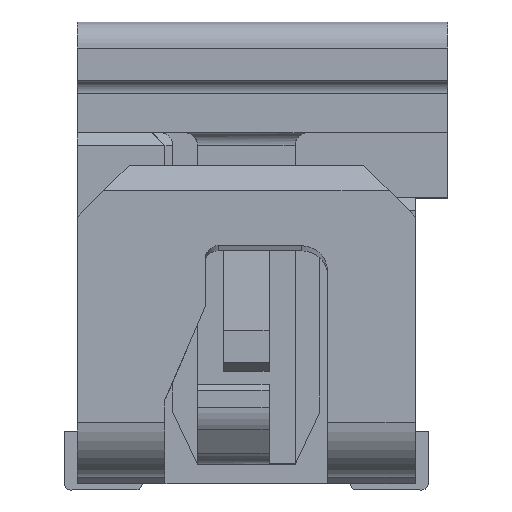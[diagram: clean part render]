
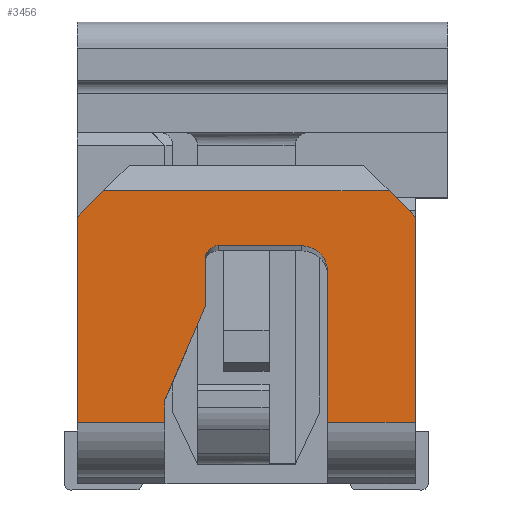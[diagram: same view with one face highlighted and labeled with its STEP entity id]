
A CAD part, left-side view. The second image highlights one B-rep face of the part: STEP entity #3456.
In plain terms, the highlighted planar face has unit normal (-1, 0, 0).
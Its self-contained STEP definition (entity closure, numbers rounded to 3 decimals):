
#36 = CARTESIAN_POINT ( 'NONE',  ( 1.7, -1.862, 1.776 ) ) ;
#189 = CARTESIAN_POINT ( 'NONE',  ( 1.7, -1.925, 1.628 ) ) ;
#226 = VECTOR ( 'NONE', #13630, 1000. ) ;
#325 = ORIENTED_EDGE ( 'NONE', *, *, #12171, .F. ) ;
#382 = LINE ( 'NONE', #3321, #2094 ) ;
#436 = CARTESIAN_POINT ( 'NONE',  ( 1.7, -0.675, 0.47 ) ) ;
#503 = VERTEX_POINT ( 'NONE', #4370 ) ;
#626 = CARTESIAN_POINT ( 'NONE',  ( 1.7, -1.922, 1.666 ) ) ;
#636 =( BOUNDED_CURVE ( )  B_SPLINE_CURVE ( 3, ( #5259, #9600, #4256, #13845 ),
 .UNSPECIFIED., .F., .F. ) 
 B_SPLINE_CURVE_WITH_KNOTS ( ( 4, 4 ),
 ( 4.712, 6.283 ),
 .UNSPECIFIED. ) 
 CURVE ( )  GEOMETRIC_REPRESENTATION_ITEM ( )  RATIONAL_B_SPLINE_CURVE ( ( 1., 0.805, 0.805, 1. ) ) 
 REPRESENTATION_ITEM ( '' )  );
#673 = CARTESIAN_POINT ( 'NONE',  ( 1.7, 0., 0.47 ) ) ;
#756 = DIRECTION ( 'NONE',  ( 0., 0., -1. ) ) ;
#838 = CARTESIAN_POINT ( 'NONE',  ( 1.7, -0.985, 1.36 ) ) ;
#874 = ORIENTED_EDGE ( 'NONE', *, *, #5708, .F. ) ;
#1047 = EDGE_CURVE ( 'NONE', #3588, #4866, #2764, .T. ) ;
#1196 = EDGE_CURVE ( 'NONE', #2840, #13615, #6457, .T. ) ;
#1447 = ORIENTED_EDGE ( 'NONE', *, *, #3464, .T. ) ;
#1626 = VECTOR ( 'NONE', #9658, 1000. ) ;
#1763 = CARTESIAN_POINT ( 'NONE',  ( 1.7, -1.725, 1.829 ) ) ;
#1830 = CARTESIAN_POINT ( 'NONE',  ( 1.7, -1.924, 1.654 ) ) ;
#2094 = VECTOR ( 'NONE', #8153, 1000. ) ;
#2174 = VERTEX_POINT ( 'NONE', #8884 ) ;
#2177 = CARTESIAN_POINT ( 'NONE',  ( 1.7, -1.821, 1.805 ) ) ;
#2300 = VECTOR ( 'NONE', #7032, 1000. ) ;
#2351 = DIRECTION ( 'NONE',  ( 0., 0., 1. ) ) ;
#2370 = PLANE ( 'NONE',  #7057 ) ;
#2764 = LINE ( 'NONE', #9393, #226 ) ;
#2840 = VERTEX_POINT ( 'NONE', #12800 ) ;
#3175 = EDGE_CURVE ( 'NONE', #6110, #11226, #10415, .T. ) ;
#3321 = CARTESIAN_POINT ( 'NONE',  ( 1.7, -0.101, 2.151 ) ) ;
#3389 = VERTEX_POINT ( 'NONE', #6234 ) ;
#3456 = ADVANCED_FACE ( 'NONE', ( #4367 ), #2370, .F. ) ;
#3464 = EDGE_CURVE ( 'NONE', #2174, #2840, #13250, .T. ) ;
#3588 = VERTEX_POINT ( 'NONE', #12451 ) ;
#3688 = VECTOR ( 'NONE', #12690, 1000. ) ;
#3742 = CARTESIAN_POINT ( 'NONE',  ( 1.7, -0.83, 1.002 ) ) ;
#3778 = ORIENTED_EDGE ( 'NONE', *, *, #13337, .T. ) ;
#3888 = DIRECTION ( 'NONE',  ( 0., 0., -1. ) ) ;
#4256 = CARTESIAN_POINT ( 'NONE',  ( 1.7, -1.026, 1.829 ) ) ;
#4296 = DIRECTION ( 'NONE',  ( 0., -1., 0. ) ) ;
#4303 = CARTESIAN_POINT ( 'NONE',  ( 1.7, -2.499, 2.151 ) ) ;
#4367 = FACE_OUTER_BOUND ( 'NONE', #11260, .T. ) ;
#4370 = CARTESIAN_POINT ( 'NONE',  ( 1.7, 0., 2.05 ) ) ;
#4575 = CARTESIAN_POINT ( 'NONE',  ( 1.7, -2.6, 0. ) ) ;
#4866 = VERTEX_POINT ( 'NONE', #13458 ) ;
#4906 = EDGE_CURVE ( 'NONE', #8535, #9902, #8226, .T. ) ;
#5138 = CARTESIAN_POINT ( 'NONE',  ( 1.7, -2.6, 2.251 ) ) ;
#5258 = LINE ( 'NONE', #5523, #11857 ) ;
#5259 = CARTESIAN_POINT ( 'NONE',  ( 1.7, -0.985, 1.729 ) ) ;
#5523 = CARTESIAN_POINT ( 'NONE',  ( 1.7, -0.675, 0.557 ) ) ;
#5597 = ORIENTED_EDGE ( 'NONE', *, *, #9108, .F. ) ;
#5708 = EDGE_CURVE ( 'NONE', #3588, #13615, #9596, .T. ) ;
#5883 = CARTESIAN_POINT ( 'NONE',  ( 1.7, -1.925, 1.628 ) ) ;
#6050 = CARTESIAN_POINT ( 'NONE',  ( 1.7, -1.887, 1.748 ) ) ;
#6110 = VERTEX_POINT ( 'NONE', #673 ) ;
#6132 = LINE ( 'NONE', #5138, #10158 ) ;
#6234 = CARTESIAN_POINT ( 'NONE',  ( 1.7, -0.675, 0.644 ) ) ;
#6457 = B_SPLINE_CURVE_WITH_KNOTS ( 'NONE', 5,
 ( #14037, #1763, #7610, #10447, #9462, #11922, #9389, #8735, #13706, #2177, #7261, #36, #11988, #6050, #11575, #10378, #10525, #626, #1830, #9313, #189 ),
 .UNSPECIFIED., .F., .F.,
 ( 6, 3, 3, 3, 3, 3, 6 ),
 ( -0.444, -0.442, -0.357, -0.268, -0.179, -0.089, 0. ),
 .UNSPECIFIED. ) ;
#6539 = ORIENTED_EDGE ( 'NONE', *, *, #10318, .T. ) ;
#6550 = CARTESIAN_POINT ( 'NONE',  ( 1.7, -0.985, 1.729 ) ) ;
#6660 = CARTESIAN_POINT ( 'NONE',  ( 1.7, -1.405, 1.829 ) ) ;
#7032 = DIRECTION ( 'NONE',  ( 0., 0.397, -0.918 ) ) ;
#7057 = AXIS2_PLACEMENT_3D ( 'NONE', #4575, #12041, #9718 ) ;
#7065 = ORIENTED_EDGE ( 'NONE', *, *, #8278, .F. ) ;
#7261 = CARTESIAN_POINT ( 'NONE',  ( 1.7, -1.842, 1.792 ) ) ;
#7326 = CARTESIAN_POINT ( 'NONE',  ( 1.7, -1.925, 1.049 ) ) ;
#7457 = LINE ( 'NONE', #4303, #1626 ) ;
#7541 = CARTESIAN_POINT ( 'NONE',  ( 1.7, -2.399, 2.251 ) ) ;
#7610 = CARTESIAN_POINT ( 'NONE',  ( 1.7, -1.726, 1.829 ) ) ;
#7780 = CARTESIAN_POINT ( 'NONE',  ( 1.7, 0., 1.26 ) ) ;
#7822 = CARTESIAN_POINT ( 'NONE',  ( 1.7, -2.6, 2.05 ) ) ;
#7930 = EDGE_CURVE ( 'NONE', #10089, #11349, #6132, .T. ) ;
#8153 = DIRECTION ( 'NONE',  ( 0., -0.707, 0.707 ) ) ;
#8226 = LINE ( 'NONE', #10491, #9375 ) ;
#8278 = EDGE_CURVE ( 'NONE', #6110, #503, #12291, .T. ) ;
#8503 = ORIENTED_EDGE ( 'NONE', *, *, #11024, .F. ) ;
#8535 = VERTEX_POINT ( 'NONE', #6550 ) ;
#8735 = CARTESIAN_POINT ( 'NONE',  ( 1.7, -1.787, 1.82 ) ) ;
#8776 = EDGE_CURVE ( 'NONE', #9902, #3389, #10429, .T. ) ;
#8846 = ORIENTED_EDGE ( 'NONE', *, *, #1196, .T. ) ;
#8884 = CARTESIAN_POINT ( 'NONE',  ( 1.7, -1.085, 1.829 ) ) ;
#9062 = ORIENTED_EDGE ( 'NONE', *, *, #7930, .T. ) ;
#9075 = VERTEX_POINT ( 'NONE', #7822 ) ;
#9108 = EDGE_CURVE ( 'NONE', #503, #11349, #382, .T. ) ;
#9313 = CARTESIAN_POINT ( 'NONE',  ( 1.7, -1.925, 1.641 ) ) ;
#9375 = VECTOR ( 'NONE', #756, 1000. ) ;
#9389 = CARTESIAN_POINT ( 'NONE',  ( 1.7, -1.763, 1.826 ) ) ;
#9393 = CARTESIAN_POINT ( 'NONE',  ( 1.7, -1.925, 0.47 ) ) ;
#9462 = CARTESIAN_POINT ( 'NONE',  ( 1.7, -1.738, 1.829 ) ) ;
#9476 = DIRECTION ( 'NONE',  ( 0., 1., 0. ) ) ;
#9575 = ORIENTED_EDGE ( 'NONE', *, *, #8776, .F. ) ;
#9596 = LINE ( 'NONE', #7326, #12429 ) ;
#9600 = CARTESIAN_POINT ( 'NONE',  ( 1.7, -0.985, 1.788 ) ) ;
#9658 = DIRECTION ( 'NONE',  ( 0., -0.707, -0.707 ) ) ;
#9718 = DIRECTION ( 'NONE',  ( 0., 1., 0. ) ) ;
#9902 = VERTEX_POINT ( 'NONE', #838 ) ;
#10089 = VERTEX_POINT ( 'NONE', #7541 ) ;
#10158 = VECTOR ( 'NONE', #9476, 1000. ) ;
#10160 = VECTOR ( 'NONE', #12468, 1000. ) ;
#10205 = LINE ( 'NONE', #11544, #3688 ) ;
#10318 = EDGE_CURVE ( 'NONE', #4866, #9075, #10205, .T. ) ;
#10378 = CARTESIAN_POINT ( 'NONE',  ( 1.7, -1.906, 1.714 ) ) ;
#10415 = LINE ( 'NONE', #13451, #10160 ) ;
#10429 = LINE ( 'NONE', #3742, #2300 ) ;
#10447 = CARTESIAN_POINT ( 'NONE',  ( 1.7, -1.726, 1.829 ) ) ;
#10491 = CARTESIAN_POINT ( 'NONE',  ( 1.7, -0.985, 1.544 ) ) ;
#10525 = CARTESIAN_POINT ( 'NONE',  ( 1.7, -1.916, 1.691 ) ) ;
#11024 = EDGE_CURVE ( 'NONE', #10089, #9075, #7457, .T. ) ;
#11226 = VERTEX_POINT ( 'NONE', #436 ) ;
#11260 = EDGE_LOOP ( 'NONE', ( #1447, #8846, #874, #12130, #6539, #8503, #9062, #5597, #7065, #13069, #325, #9575, #11622, #3778 ) ) ;
#11349 = VERTEX_POINT ( 'NONE', #13731 ) ;
#11544 = CARTESIAN_POINT ( 'NONE',  ( 1.7, -2.6, 1.26 ) ) ;
#11575 = CARTESIAN_POINT ( 'NONE',  ( 1.7, -1.901, 1.726 ) ) ;
#11579 = VECTOR ( 'NONE', #4296, 1000. ) ;
#11622 = ORIENTED_EDGE ( 'NONE', *, *, #4906, .F. ) ;
#11857 = VECTOR ( 'NONE', #3888, 1000. ) ;
#11922 = CARTESIAN_POINT ( 'NONE',  ( 1.7, -1.751, 1.828 ) ) ;
#11988 = CARTESIAN_POINT ( 'NONE',  ( 1.7, -1.871, 1.767 ) ) ;
#12041 = DIRECTION ( 'NONE',  ( 1., 0., 0. ) ) ;
#12130 = ORIENTED_EDGE ( 'NONE', *, *, #1047, .T. ) ;
#12171 = EDGE_CURVE ( 'NONE', #3389, #11226, #5258, .T. ) ;
#12291 = LINE ( 'NONE', #7780, #12665 ) ;
#12429 = VECTOR ( 'NONE', #13697, 1000. ) ;
#12451 = CARTESIAN_POINT ( 'NONE',  ( 1.7, -1.925, 0.47 ) ) ;
#12468 = DIRECTION ( 'NONE',  ( 0., -1., 0. ) ) ;
#12665 = VECTOR ( 'NONE', #2351, 1000. ) ;
#12690 = DIRECTION ( 'NONE',  ( 0., 0., 1. ) ) ;
#12800 = CARTESIAN_POINT ( 'NONE',  ( 1.7, -1.725, 1.829 ) ) ;
#13069 = ORIENTED_EDGE ( 'NONE', *, *, #3175, .T. ) ;
#13250 = LINE ( 'NONE', #6660, #11579 ) ;
#13337 = EDGE_CURVE ( 'NONE', #8535, #2174, #636, .T. ) ;
#13451 = CARTESIAN_POINT ( 'NONE',  ( 1.7, 0., 0.47 ) ) ;
#13458 = CARTESIAN_POINT ( 'NONE',  ( 1.7, -2.6, 0.47 ) ) ;
#13615 = VERTEX_POINT ( 'NONE', #5883 ) ;
#13630 = DIRECTION ( 'NONE',  ( 0., -1., 0. ) ) ;
#13697 = DIRECTION ( 'NONE',  ( 0., 0., 1. ) ) ;
#13706 = CARTESIAN_POINT ( 'NONE',  ( 1.7, -1.809, 1.811 ) ) ;
#13731 = CARTESIAN_POINT ( 'NONE',  ( 1.7, -0.201, 2.251 ) ) ;
#13845 = CARTESIAN_POINT ( 'NONE',  ( 1.7, -1.085, 1.829 ) ) ;
#14037 = CARTESIAN_POINT ( 'NONE',  ( 1.7, -1.725, 1.829 ) ) ;
